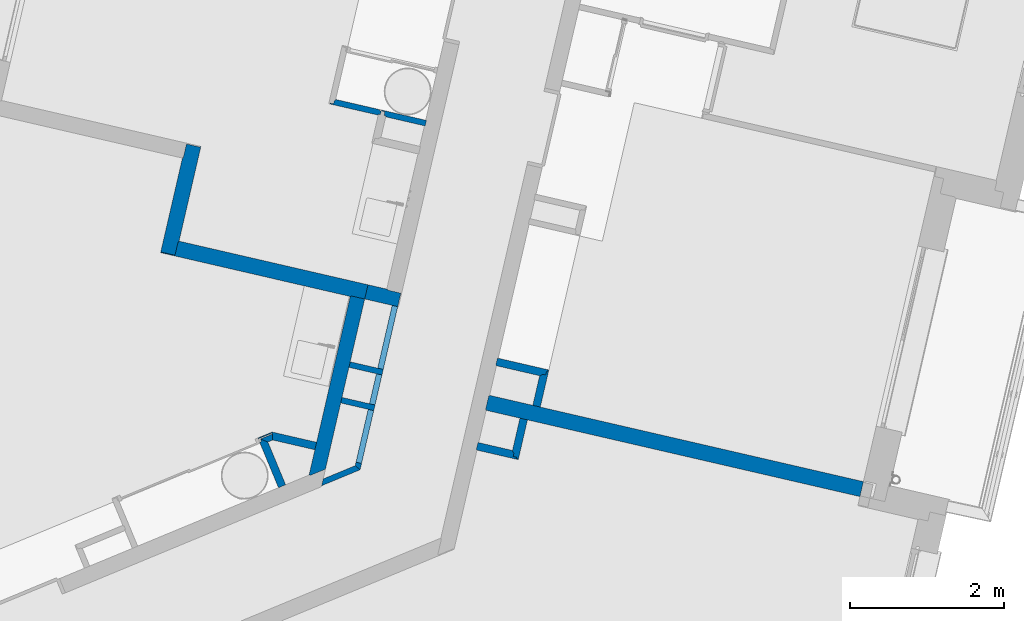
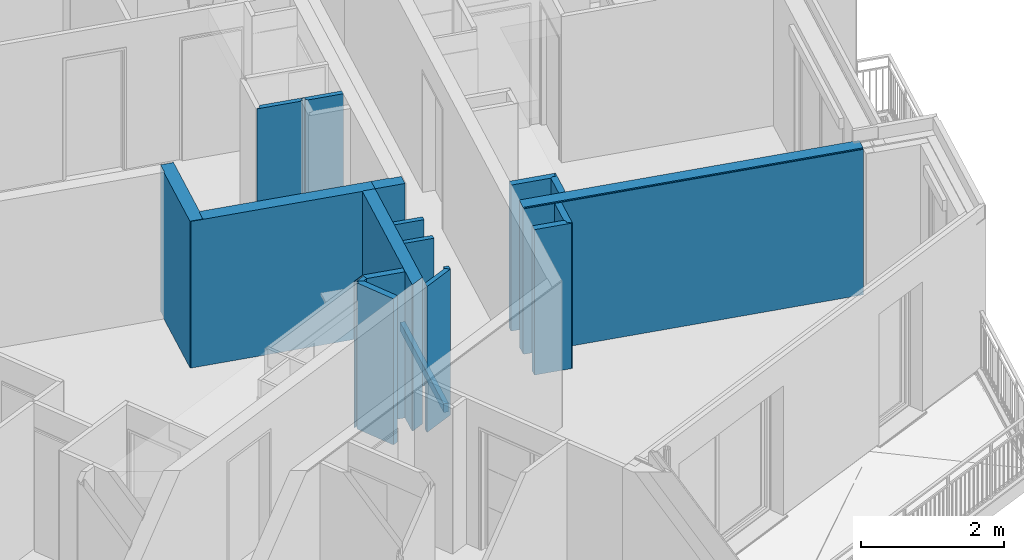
# One storey, part 44 of 90: 19 walls.
"""IFC2X3 building model written with IfcOpenShell, lengths in metres."""

from ifc_helpers import new_model, entity, si_unit, converted_unit, derived_unit, money_unit, direction, frame, origin_with_axes, place, context, subcontext, project, spatial, faceted_brep, material, material_list, type_object, element, save


model = new_model("IFC2X3")

# Units and contexts
model_context = context("Model", 3, precision=1e-05, world=origin_with_axes(), true_north=direction((0.0, 1.0)))
body_context = subcontext(model_context, "Body", "Model", "MODEL_VIEW")
ifc_project = project(units=[si_unit("LENGTHUNIT", "METRE"), si_unit("AREAUNIT", "SQUARE_METRE"), si_unit("VOLUMEUNIT", "CUBIC_METRE"), converted_unit("PLANEANGLEUNIT", "DEGREE", entity("IfcPlaneAngleMeasure", 0.0174532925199), si_unit("PLANEANGLEUNIT", "RADIAN"), dimensions=[0, 0, 0, 0, 0, 0, 0]), si_unit("SOLIDANGLEUNIT", "STERADIAN"), money_unit("EUR"), converted_unit("TIMEUNIT", "Year", entity("IfcTimeMeasure", 31556926.0), si_unit("TIMEUNIT", "SECOND"), dimensions=[0, 0, 1, 0, 0, 0, 0]), si_unit("MASSUNIT", "GRAM", prefix="KILO"), si_unit("THERMODYNAMICTEMPERATUREUNIT", "DEGREE_CELSIUS"), si_unit("LUMINOUSINTENSITYUNIT", "LUMEN"), si_unit("ENERGYUNIT", "JOULE", prefix="MEGA"), derived_unit("THERMALCONDUCTANCEUNIT", [(si_unit("POWERUNIT", "WATT"), 1), (si_unit("LENGTHUNIT", "METRE"), -1), (si_unit("THERMODYNAMICTEMPERATUREUNIT", "KELVIN"), -1)]), derived_unit("SPECIFICHEATCAPACITYUNIT", [(si_unit("ENERGYUNIT", "JOULE"), 1), (si_unit("MASSUNIT", "GRAM", prefix="KILO"), -1), (si_unit("THERMODYNAMICTEMPERATUREUNIT", "KELVIN"), -1)]), derived_unit("MASSDENSITYUNIT", [(si_unit("MASSUNIT", "GRAM", prefix="KILO"), 1), (si_unit("VOLUMEUNIT", "CUBIC_METRE"), -1)])], contexts=[model_context])

# Site, building, storey
site_placement = place(None, origin_with_axes())
site = spatial("IfcSite", under=ifc_project, at=site_placement, Name="Site", CompositionType="ELEMENT")
building_placement = place(site_placement, origin_with_axes())
building = spatial("IfcBuilding", under=site, at=building_placement, Name="Bâtiment", CompositionType="ELEMENT")
storey_placement = place(building_placement, frame((0.0, 0.0, 2.72), z_axis=(0.0, 0.0, 1.0), x_axis=(1.0, 0.0, 0.0)))
storey = spatial("IfcBuildingStorey", under=building, at=storey_placement, Name="R+1", CompositionType="ELEMENT", Elevation=2.72)

# Walls
ifc_material_1 = material(Name="Cloison - Carreaux de plâtre")
wall_type_1 = type_object("IfcWallType", Name="Cloison - Carreaux de plâtre 74", PredefinedType="USERDEFINED")
wall_1_placement = place(storey_placement, frame((-14.2603679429, -15.3325991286, 0.0), z_axis=(0.0, 0.0, 1.0), x_axis=(-0.224876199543, -0.974387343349, 0.0)))
element("IfcWall", 1, at=wall_1_placement, inside=storey, type_object=wall_type_1, material=ifc_material_1, Name="Carreaux de plâtre 8cm", ObjectType="PARTITIONING", context=body_context, shape_type="Brep", body=[
    faceted_brep([(2.0880083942, 0.0, 0.15), (2.0880083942, 0.0, 0.0), (0.0, 0.0, 0.0), (0.0, 0.0, 0.15), (2.0880083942, -0.074, 0.15), (2.0880083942, -0.074, 0.0), (0.0, -0.074, 0.0), (0.0, -0.074, 0.15)], [[[0, 1, 2, 3]], [[4, 5, 1, 0]], [[1, 5, 6, 2]], [[2, 6, 7, 3]], [[4, 0, 3, 7]], [[5, 4, 7, 6]]]),
])
wall_2_placement = place(storey_placement, frame((-15.2595237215, -17.6608345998, 0.0), z_axis=(0.0, 0.0, 1.0), x_axis=(0.923701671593, 0.383112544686, 0.0)))
element("IfcWall", 2, at=wall_2_placement, inside=storey, type_object=wall_type_1, material=ifc_material_1, Name="Carreaux de plâtre 8cm", ObjectType="PARTITIONING", context=body_context, shape_type="Brep", body=[
    faceted_brep([(0.514805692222, 0.074, 2.5), (0.514805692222, 0.074, 0.0), (0.0651136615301, 0.074, 0.0), (0.0651136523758, 0.074, 2.5), (0.552900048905, 0.0, 2.5), (0.552900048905, 0.0, 0.0), (0.0122866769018, 0.0, 0.0), (0.0122866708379, 4.33344737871e-09, 2.5)], [[[0, 1, 2, 3]], [[4, 5, 1, 0]], [[1, 5, 6, 2]], [[2, 6, 7, 3]], [[4, 0, 3, 7]], [[5, 4, 7, 6]]]),
])
wall_3_placement = place(storey_placement, frame((-14.5715853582, -16.6811024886, 0.0), z_axis=(0.0, 0.0, 1.0), x_axis=(-0.974387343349, 0.224876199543, 0.0)))
element("IfcWall", 3, at=wall_3_placement, inside=storey, type_object=wall_type_1, material=ifc_material_1, Name="Carreaux de plâtre 8cm", ObjectType="PARTITIONING", context=body_context, shape_type="Brep", body=[
    faceted_brep([(0.0, -0.074, 2.5), (0.0, 0.0, 2.5), (0.0, 0.0, 0.15), (0.0, -0.074, 0.15), (0.440000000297, -0.074, 2.5), (0.440000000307, 0.0, 2.5), (0.440000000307, 0.0, 0.0), (0.0740000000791, 0.0, 0.0), (0.0740000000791, 0.0, 0.15), (0.0740000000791, -0.074, 0.15), (0.0740000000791, -0.074, 0.0), (0.440000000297, -0.074, 0.0)], [[[0, 1, 2, 3]], [[0, 4, 5, 1]], [[6, 7, 8, 2, 1, 5]], [[2, 8, 9, 3]], [[0, 3, 9, 10, 11, 4]], [[6, 5, 4, 11]], [[6, 11, 10, 7]], [[8, 7, 10, 9]]]),
])
wall_4_placement = place(storey_placement, frame((-14.4649940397, -16.2192428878, 0.0), z_axis=(0.0, 0.0, 1.0), x_axis=(-0.974387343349, 0.224876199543, 0.0)))
element("IfcWall", 4, at=wall_4_placement, inside=storey, type_object=wall_type_1, material=ifc_material_1, Name="Carreaux de plâtre 8cm", ObjectType="PARTITIONING", context=body_context, shape_type="Brep", body=[
    faceted_brep([(0.0, -0.074, 2.5), (0.0, 0.0, 2.5), (0.0, 0.0, 0.15), (0.0, -0.074, 0.15), (0.440000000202, -0.074, 2.5), (0.440000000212, 0.0, 2.5), (0.440000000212, 0.0, 0.0), (0.0740000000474, 0.0, 0.0), (0.0740000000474, 0.0, 0.15), (0.0740000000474, -0.074, 0.15), (0.0740000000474, -0.074, 0.0), (0.440000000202, -0.074, 0.0)], [[[0, 1, 2, 3]], [[0, 4, 5, 1]], [[6, 7, 8, 2, 1, 5]], [[2, 8, 9, 3]], [[0, 3, 9, 10, 11, 4]], [[6, 5, 4, 11]], [[6, 11, 10, 7]], [[8, 7, 10, 9]]]),
])
wall_5_placement = place(storey_placement, frame((-14.7299113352, -17.3671280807, 0.0), z_axis=(0.0, 0.0, 1.0), x_axis=(-0.224876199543, -0.974387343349, 0.0)))
element("IfcWall", 5, at=wall_5_placement, inside=storey, type_object=wall_type_1, material=ifc_material_1, Name="Carreaux de plâtre 8cm", ObjectType="PARTITIONING", context=body_context, shape_type="Brep", body=[
    faceted_brep([(0.0, 0.0, 2.5), (0.0, -0.074, 2.5), (0.0459416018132, -0.074, 2.5), (0.0840359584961, 0.0, 2.5), (0.0, 0.0, 0.15), (0.0, -0.074, 0.15), (0.0, -0.074, 0.0), (0.0459416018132, -0.074, 0.0), (0.0840359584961, 0.0, 0.0), (0.0, 0.0, 0.0)], [[[0, 1, 2, 3]], [[1, 0, 4, 5]], [[5, 6, 7, 2, 1]], [[7, 8, 3, 2]], [[3, 8, 9, 4, 0]], [[9, 6, 5, 4]], [[9, 8, 7, 6]]]),
])
ifc_material_2 = material(Name="Finition int - Plaque de plâtre")
ifc_material_3 = material(Name="Isolation - Laine de roche")
ifc_material_list_1 = material_list([ifc_material_2, ifc_material_3, ifc_material_2])
wall_type_2 = type_object("IfcWallType", Name="3 - Cloison 72mm Placostil 74", PredefinedType="USERDEFINED")
wall_6_placement = place(storey_placement, frame((-14.4971187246, -12.7758750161, 0.0), z_axis=(0.0, 0.0, 1.0), x_axis=(-0.974387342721, 0.224876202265, 0.0)))
element("IfcWall", 6, at=wall_6_placement, inside=storey, type_object=wall_type_2, material=ifc_material_list_1, Name="Cloison Placostil 72/48", ObjectType="PARTITIONING", context=body_context, shape_type="Brep", body=[
    faceted_brep([(0.645366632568, 0.074, 2.5), (-2.16481055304e-10, 0.074, 2.5), (-1.78452808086e-10, 0.061, 2.5), (0.645366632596, 0.061, 2.5), (0.645366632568, 0.074, 0.0), (-2.16481055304e-10, 0.074, 0.0), (-1.78452808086e-10, 0.061, 0.0), (0.645366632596, 0.061, 0.0)], [[[0, 1, 2, 3]], [[4, 5, 1, 0]], [[5, 6, 2, 1]], [[3, 2, 6, 7]], [[0, 3, 7, 4]], [[7, 6, 5, 4]]]),
    faceted_brep([(0.597366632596, 0.061, 2.5), (-0.0260000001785, 0.061, 2.5), (-0.026000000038, 0.013, 2.5), (0.597366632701, 0.013, 2.5), (0.597366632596, 0.061, 0.0), (-0.0260000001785, 0.061, 0.0), (-0.026000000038, 0.013, 0.0), (0.597366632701, 0.013, 0.0)], [[[0, 1, 2, 3]], [[4, 5, 1, 0]], [[5, 6, 2, 1]], [[3, 2, 6, 7]], [[0, 3, 7, 4]], [[7, 6, 5, 4]]]),
    faceted_brep([(0.584366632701, 0.013, 2.5), (0.0, 0.013, 2.5), (0.0, 0.0, 2.5), (0.584366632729, 0.0, 2.5), (0.584366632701, 0.013, 0.0), (0.0, 0.013, 0.0), (0.0, 0.0, 0.0), (0.584366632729, 0.0, 0.0)], [[[0, 1, 2, 3]], [[4, 5, 1, 0]], [[5, 6, 2, 1]], [[3, 2, 6, 7]], [[0, 3, 7, 4]], [[7, 6, 5, 4]]]),
])
ifc_material_4 = material(Name="Finition int - Enduit plâtre")
ifc_material_5 = material(Name="Béton")
ifc_material_list_2 = material_list([ifc_material_4, ifc_material_5, ifc_material_4])
wall_type_3 = type_object("IfcWallType", Name="2 - Murs Béton 18 + Enduit 2 Faces 200", PredefinedType="USERDEFINED")
wall_7_placement = place(storey_placement, frame((-17.3251185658, -14.6252936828, 0.0), z_axis=(0.0, 0.0, 1.0), x_axis=(0.974387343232, -0.224876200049, 0.0)))
element("IfcWall", 7, at=wall_7_placement, inside=storey, type_object=wall_type_3, material=ifc_material_list_2, Name="M_Ext-009", ObjectType="SOLIDWALL", context=body_context, shape_type="Brep", body=[
    faceted_brep([(0.189999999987, 0.19, 2.51), (2.70531037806, 0.19, 2.51), (2.70531037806, 0.19, 0.0), (0.189999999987, 0.19, 0.0), (2.70531037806, 0.18, 2.51), (0.189999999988, 0.18, 2.51), (2.70531037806, 0.18, 0.0), (0.189999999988, 0.18, 0.0)], [[[0, 1, 2, 3]], [[4, 1, 0, 5]], [[1, 4, 6, 2]], [[3, 2, 6, 7]], [[5, 0, 3, 7]], [[4, 5, 7, 6]]]),
    faceted_brep([(0.179999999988, 0.18, 2.51), (2.70531037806, 0.18, 2.51), (2.70531037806, 0.18, 0.0), (0.179999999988, 0.18, 0.0), (2.70531037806, 0.0, 2.51), (0.18, 0.0, 2.51), (2.70531037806, 0.0, 0.0), (0.18, 0.0, 0.0)], [[[0, 1, 2, 3]], [[4, 1, 0, 5]], [[1, 4, 6, 2]], [[3, 2, 6, 7]], [[5, 0, 3, 7]], [[4, 5, 7, 6]]]),
    faceted_brep([(0.0, 0.0, 2.51), (2.52531037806, 0.0, 2.51), (2.52531037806, 0.0, 0.0), (0.0, 0.0, 0.0), (2.52531037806, -0.01, 2.51), (0.0, -0.01, 2.51), (2.52531037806, -0.01, 0.0), (0.0, -0.01, 0.0)], [[[0, 1, 2, 3]], [[4, 1, 0, 5]], [[1, 4, 6, 2]], [[2, 6, 7, 3]], [[5, 0, 3, 7]], [[4, 5, 7, 6]]]),
])
wall_8_placement = place(storey_placement, frame((-13.2559496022, -16.450136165, 0.0), z_axis=(0.0, 0.0, 1.0), x_axis=(0.974387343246, -0.224876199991, 0.0)))
element("IfcWall", 8, at=wall_8_placement, inside=storey, type_object=wall_type_3, material=ifc_material_list_2, Name="M_Ext-009", ObjectType="SOLIDWALL", context=body_context, shape_type="Brep", body=[
    faceted_brep([(0.190000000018, 0.0, 2.51), (5.16700000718, 0.0, 2.51), (5.16700000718, 0.01, 2.51), (0.190000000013, 0.01, 2.51), (0.190000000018, 0.0, 0.0), (5.16700000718, 0.0, 0.0), (5.16700000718, 0.01, 0.0), (0.190000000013, 0.01, 0.0)], [[[0, 1, 2, 3]], [[4, 5, 1, 0]], [[2, 1, 5, 6]], [[3, 2, 6, 7]], [[4, 0, 3, 7]], [[7, 6, 5, 4]]]),
    faceted_brep([(0.18000000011, -0.18, 2.51), (5.16700000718, -0.18, 2.51), (5.16700000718, 0.0, 2.51), (0.180000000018, 0.0, 2.51), (0.18000000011, -0.18, 0.0), (5.16700000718, -0.18, 0.0), (5.16700000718, 0.0, 0.0), (0.180000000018, 0.0, 0.0)], [[[0, 1, 2, 3]], [[4, 5, 1, 0]], [[2, 1, 5, 6]], [[3, 2, 6, 7]], [[4, 0, 3, 7]], [[7, 6, 5, 4]]]),
    faceted_brep([(0.19000000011, -0.180000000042, 2.49), (5.16700000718, -0.180000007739, 2.49), (5.16700000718, -0.18, 0.0), (0.19000000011, -0.18, 0.0), (5.16700000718, -0.19, 2.49), (0.190000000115, -0.19, 2.49), (5.16700000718, -0.19, 0.0), (0.190000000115, -0.19, 0.0)], [[[0, 1, 2, 3]], [[4, 1, 0, 5]], [[1, 4, 6, 2]], [[3, 2, 6, 7]], [[5, 0, 3, 7]], [[4, 5, 7, 6]]]),
])
wall_9_placement = place(storey_placement, frame((-17.0012968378, -13.2221759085, 0.0), z_axis=(0.0, 0.0, 1.0), x_axis=(-0.224876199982, -0.974387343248, 0.0)))
element("IfcWall", 9, at=wall_9_placement, inside=storey, type_object=wall_type_3, material=ifc_material_list_2, Name="M_Ext-008", ObjectType="SOLIDWALL", context=body_context, shape_type="Brep", body=[
    faceted_brep([(-0.0100000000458, 0.18, 2.51), (-0.0100000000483, 0.19, 2.51), (-0.0100000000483, 0.19, 0.0), (-0.0100000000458, 0.18, 0.0), (1.26000000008, 0.19, 2.51), (1.26000000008, 0.18, 2.51), (1.26000000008, 0.19, 0.0), (1.26000000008, 0.18, 0.0)], [[[0, 1, 2, 3]], [[4, 1, 0, 5]], [[1, 4, 6, 2]], [[6, 7, 3, 2]], [[5, 0, 3, 7]], [[4, 5, 7, 6]]]),
    faceted_brep([(0.0, 0.0, 2.51), (0.0, 0.18, 2.51), (0.0, 0.18, 0.0), (0.0, 0.0, 0.0), (1.44000000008, 0.18, 2.51), (1.44000000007, 0.0, 2.51), (1.44000000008, 0.18, 0.0), (1.44000000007, 0.0, 0.0)], [[[0, 1, 2, 3]], [[4, 1, 0, 5]], [[1, 4, 6, 2]], [[6, 7, 3, 2]], [[5, 0, 3, 7]], [[4, 5, 7, 6]]]),
    faceted_brep([(0.180000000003, -0.00999999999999, 2.51), (0.18, 0.0, 2.51), (0.18, 0.0, 0.0), (0.180000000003, -0.00999999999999, 0.0), (1.45000000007, 0.0, 2.51), (1.45000000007, -0.01, 2.51), (1.45000000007, 0.0, 0.0), (1.45000000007, -0.01, 0.0)], [[[0, 1, 2, 3]], [[4, 1, 0, 5]], [[1, 4, 6, 2]], [[6, 7, 3, 2]], [[5, 0, 3, 7]], [[4, 5, 7, 6]]]),
])
wall_type_4 = type_object("IfcWallType", Name="3 - Cloison Gaine Technique 72mm 74", PredefinedType="USERDEFINED")
wall_10_placement = place(storey_placement, frame((-13.7121197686, -12.9570427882, 0.0), z_axis=(0.0, 0.0, 1.0), x_axis=(-0.974387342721, 0.224876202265, 0.0)))
element("IfcWall", 10, at=wall_10_placement, inside=storey, type_object=wall_type_4, material=ifc_material_list_1, Name="Cloison Placostil 72/48", ObjectType="PARTITIONING", context=body_context, shape_type="Brep", body=[
    faceted_brep([(0.705633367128, 0.074, 0.0), (0.705633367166, 0.061, 0.0), (0.179999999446, 0.061, 0.0), (0.179999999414, 0.074, 0.0), (0.705633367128, 0.074, 2.5), (0.705633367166, 0.061, 2.5), (0.179999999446, 0.061, 2.5), (0.179999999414, 0.074, 2.5)], [[[0, 1, 2, 3]], [[1, 0, 4, 5]], [[1, 5, 6, 2]], [[7, 3, 2, 6]], [[4, 0, 3, 7]], [[5, 4, 7, 6]]]),
    faceted_brep([(0.731633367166, 0.061, 0.0), (0.731633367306, 0.013, 0.0), (0.179999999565, 0.013, 0.0), (0.179999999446, 0.061, 0.0), (0.731633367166, 0.061, 2.5), (0.731633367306, 0.013, 2.5), (0.179999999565, 0.013, 2.5), (0.179999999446, 0.061, 2.5)], [[[0, 1, 2, 3]], [[1, 0, 4, 5]], [[1, 5, 6, 2]], [[7, 3, 2, 6]], [[4, 0, 3, 7]], [[5, 4, 7, 6]]]),
    faceted_brep([(0.179999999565, 0.013, 0.0), (0.779633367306, 0.013, 0.0), (0.779633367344, 0.0, 0.0), (0.179999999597, 0.0, 0.0), (0.179999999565, 0.013, 2.5), (0.779633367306, 0.013, 2.5), (0.779633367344, 0.0, 2.5), (0.179999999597, 0.0, 2.5)], [[[0, 1, 2, 3]], [[4, 5, 1, 0]], [[6, 2, 1, 5]], [[3, 2, 6, 7]], [[7, 4, 0, 3]], [[7, 6, 5, 4]]]),
])
ifc_material_list_3 = material_list([ifc_material_5, ifc_material_4])
wall_type_5 = type_object("IfcWallType", Name="2 - Murs Béton 18 + Enduit 1 Face 190", PredefinedType="USERDEFINED")
wall_11_placement = place(storey_placement, frame((-14.6988422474, -15.2314048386, 0.0), z_axis=(0.0, 0.0, 1.0), x_axis=(-0.224876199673, -0.974387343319, 0.0)))
element("IfcWall", 11, at=wall_11_placement, inside=storey, type_object=wall_type_5, material=ifc_material_list_3, Name="M_Ext-009", ObjectType="SOLIDWALL", context=body_context, shape_type="Brep", body=[
    faceted_brep([(-1.19925402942e-10, -0.17, 2.51), (0.0, 0.01, 2.51), (0.0, 0.01, 0.0), (-1.19925402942e-10, -0.17, 0.0), (2.2649907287, 0.01, 2.51), (2.39348879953, -0.17, 2.51), (2.26499072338, 0.0100000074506, 0.0), (2.39348879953, -0.17, 0.0)], [[[0, 1, 2, 3]], [[4, 1, 0, 5]], [[1, 4, 6, 2]], [[2, 6, 7, 3]], [[5, 0, 3, 7]], [[4, 5, 7, 6]]]),
    faceted_brep([(0.00999999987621, -0.18, 2.51), (0.00999999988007, -0.17, 2.51), (0.00999999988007, -0.17, 0.0), (0.00999999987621, -0.18, 0.0), (2.38120213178, -0.17, 2.51), (2.38834091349, -0.18, 2.51), (2.38120213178, -0.17, 0.0), (2.38834091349, -0.18, 0.0)], [[[0, 1, 2, 3]], [[4, 1, 0, 5]], [[1, 4, 6, 2]], [[2, 6, 7, 3]], [[5, 0, 3, 7]], [[4, 5, 7, 6]]]),
])
ifc_material_list_4 = material_list([ifc_material_4, ifc_material_5])
wall_12_placement = place(storey_placement, frame((-14.6890983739, -15.2336536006, 0.0), z_axis=(0.0, 0.0, 1.0), x_axis=(0.974387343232, -0.224876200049, 0.0)))
element("IfcWall", 12, at=wall_12_placement, inside=storey, type_object=wall_type_5, material=ifc_material_list_4, Name="M_Ext-009", ObjectType="SOLIDWALL", context=body_context, shape_type="Brep", body=[
    faceted_brep([(0.0, 0.19, 2.51), (0.260000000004, 0.19, 2.51), (0.260000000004, 0.19, 0.0), (0.0, 0.19, 0.0), (0.260000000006, 0.18, 2.51), (0.0, 0.18, 2.51), (0.260000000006, 0.18, 0.0), (0.0, 0.18, 0.0)], [[[0, 1, 2, 3]], [[4, 1, 0, 5]], [[1, 4, 6, 2]], [[3, 2, 6, 7]], [[5, 0, 3, 7]], [[4, 5, 7, 6]]]),
    faceted_brep([(0.0, 0.18, 2.51), (0.440000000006, 0.18, 2.51), (0.440000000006, 0.18, 0.0), (0.0, 0.18, 0.0), (0.440000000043, 0.0, 2.51), (0.0, 0.0, 2.51), (0.440000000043, 0.0, 0.0), (0.0, 0.0, 0.0)], [[[0, 1, 2, 3]], [[4, 1, 0, 5]], [[1, 4, 6, 2]], [[3, 2, 6, 7]], [[5, 0, 3, 7]], [[4, 5, 7, 6]]]),
])
ifc_material_list_5 = material_list([ifc_material_2, ifc_material_3, ifc_material_2, ifc_material_2])
wall_type_6 = type_object("IfcWallType", Name="3 - Cloison Gaine Technique 98mm 100", PredefinedType="USERDEFINED")
wall_13_placement = place(storey_placement, frame((-16.0750117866, -17.0355501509, 0.0), z_axis=(0.0, 0.0, 1.0), x_axis=(0.923701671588, 0.383112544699, 0.0)))
element("IfcWall", 13, at=wall_13_placement, inside=storey, type_object=wall_type_6, material=ifc_material_list_5, Name="Cloison 98 isolée", ObjectType="PARTITIONING", context=body_context, shape_type="Brep", body=[
    faceted_brep([(0.200046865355, 0.0, 2.5), (0.0, 0.0, 2.5), (0.0129999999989, -0.013, 2.5), (0.195882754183, -0.013, 2.5), (0.200046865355, 0.0, 0.0), (0.0, 0.0, 0.0), (0.0129999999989, -0.013, 0.0), (0.195882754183, -0.013, 0.0)], [[[0, 1, 2, 3]], [[4, 5, 1, 0]], [[1, 5, 6, 2]], [[7, 3, 2, 6]], [[7, 4, 0, 3]], [[4, 7, 6, 5]]]),
    faceted_brep([(0.176343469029, -0.0739999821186, 2.5), (0.191718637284, -0.0260000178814, 2.5), (0.0260000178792, -0.0260000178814, 2.5), (0.0739999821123, -0.0739999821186, 2.5), (0.176343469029, -0.0739999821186, 0.0), (0.191718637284, -0.0260000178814, 0.0), (0.0260000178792, -0.0260000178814, 0.0), (0.0739999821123, -0.0739999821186, 0.0)], [[[0, 1, 2, 3]], [[4, 5, 1, 0]], [[1, 5, 6, 2]], [[2, 6, 7, 3]], [[4, 0, 3, 7]], [[5, 4, 7, 6]]]),
    faceted_brep([(0.17217935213, -0.087, 2.5), (0.176343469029, -0.0739999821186, 2.5), (0.0739999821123, -0.0739999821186, 2.5), (0.0869999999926, -0.087, 2.5), (0.17217935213, -0.087, 0.0), (0.176343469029, -0.0739999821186, 0.0), (0.0739999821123, -0.0739999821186, 0.0), (0.0869999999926, -0.087, 0.0)], [[[0, 1, 2, 3]], [[4, 5, 1, 0]], [[1, 5, 6, 2]], [[2, 6, 7, 3]], [[4, 0, 3, 7]], [[5, 4, 7, 6]]]),
    faceted_brep([(0.168015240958, -0.1, 2.5), (0.17217935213, -0.087, 2.5), (0.0869999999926, -0.087, 2.5), (0.0999999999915, -0.1, 2.5), (0.168015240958, -0.1, 0.0), (0.17217935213, -0.087, 0.0), (0.0869999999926, -0.087, 0.0), (0.0999999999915, -0.1, 0.0)], [[[0, 1, 2, 3]], [[4, 5, 1, 0]], [[1, 5, 6, 2]], [[2, 6, 7, 3]], [[4, 0, 3, 7]], [[5, 4, 7, 6]]]),
])
ifc_material_list_6 = material_list([ifc_material_2, ifc_material_2, ifc_material_3, ifc_material_2, ifc_material_2])
wall_14_placement = place(storey_placement, frame((-13.1651790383, -16.0568278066, 0.0), z_axis=(0.0, 0.0, 1.0), x_axis=(0.974387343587, -0.224876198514, 0.0)))
element("IfcWall", 14, at=wall_14_placement, inside=storey, type_object=wall_type_6, material=ifc_material_list_6, Name="Cloison 98 isolée", ObjectType="PARTITIONING", context=body_context, shape_type="Brep", body=[
    faceted_brep([(0.864999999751, 0.1, 2.2), (0.864999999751, 0.1, 2.5), (0.864999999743, 0.087, 2.5), (0.864999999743, 0.087, 0.0), (0.864999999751, 0.1, 0.0), (0.19000000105, 0.098000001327, 2.5), (0.19000000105, 0.098000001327, 2.2), (0.190000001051, 0.1, 2.5), (0.18000000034, 0.1, 2.5), (0.180000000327, 0.087, 2.5), (0.180000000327, 0.087, 0.0), (0.18000000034, 0.1, 0.0), (0.190000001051, 0.1, 2.2)], [[[0, 1, 2, 3, 4]], [[5, 1, 0, 6]], [[5, 7, 8, 9, 2, 1]], [[3, 2, 9, 10]], [[4, 3, 10, 11]], [[12, 0, 4, 11, 8, 7]], [[0, 12, 6]], [[12, 7, 5, 6]], [[8, 11, 10, 9]]]),
    faceted_brep([(0.851999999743, 0.087, 0.0), (0.851999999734, 0.074, 0.0), (0.180000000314, 0.074, 0.0), (0.180000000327, 0.087, 0.0), (0.851999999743, 0.087, 2.5), (0.851999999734, 0.074, 2.5), (0.180000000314, 0.074, 2.5), (0.180000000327, 0.087, 2.5)], [[[0, 1, 2, 3]], [[1, 0, 4, 5]], [[1, 5, 6, 2]], [[7, 3, 2, 6]], [[4, 0, 3, 7]], [[5, 4, 7, 6]]]),
    faceted_brep([(0.838999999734, 0.074, 0.0), (0.838999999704, 0.026, 0.0), (0.180000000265, 0.026, 0.0), (0.180000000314, 0.074, 0.0), (0.838999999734, 0.074, 2.5), (0.838999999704, 0.026, 2.5), (0.180000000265, 0.026, 2.5), (0.180000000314, 0.074, 2.5)], [[[0, 1, 2, 3]], [[1, 0, 4, 5]], [[1, 5, 6, 2]], [[7, 3, 2, 6]], [[4, 0, 3, 7]], [[5, 4, 7, 6]]]),
    faceted_brep([(0.790999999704, 0.026, 0.0), (0.790999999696, 0.013, 0.0), (0.180000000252, 0.013, 0.0), (0.180000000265, 0.026, 0.0), (0.790999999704, 0.026, 2.5), (0.790999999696, 0.013, 2.5), (0.180000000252, 0.013, 2.5), (0.180000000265, 0.026, 2.5)], [[[0, 1, 2, 3]], [[1, 0, 4, 5]], [[1, 5, 6, 2]], [[7, 3, 2, 6]], [[4, 0, 3, 7]], [[5, 4, 7, 6]]]),
    faceted_brep([(0.777999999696, 0.013, 0.0), (0.777999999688, 0.0, 0.0), (0.180000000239, 0.0, 0.0), (0.180000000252, 0.013, 0.0), (0.777999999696, 0.013, 2.5), (0.777999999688, 0.0, 2.5), (0.180000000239, 0.0, 2.5), (0.180000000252, 0.013, 2.5)], [[[0, 1, 2, 3]], [[1, 0, 4, 5]], [[1, 5, 6, 2]], [[7, 3, 2, 6]], [[4, 0, 3, 7]], [[5, 4, 7, 6]]]),
])
wall_15_placement = place(storey_placement, frame((-12.6968138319, -17.3181034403, 0.0), z_axis=(0.0, 0.0, 1.0), x_axis=(-0.97438734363, 0.224876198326, 0.0)))
element("IfcWall", 15, at=wall_15_placement, inside=storey, type_object=wall_type_6, material=ifc_material_list_6, Name="Cloison 98 isolée", ObjectType="PARTITIONING", context=body_context, shape_type="Brep", body=[
    faceted_brep([(0.560000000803, -0.013, 2.49), (0.0129999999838, -0.013, 2.49), (0.0129999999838, -0.013, 0.0), (0.559999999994, -0.013, 0.0), (0.013, 0.0, 2.49), (0.560000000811, 0.0, 2.49), (0.013, 0.0, 0.0), (0.56000000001, 0.0, 0.0)], [[[0, 1, 2, 3]], [[4, 1, 0, 5]], [[1, 4, 6, 2]], [[7, 3, 2, 6]], [[5, 0, 3, 7]], [[4, 5, 7, 6]]]),
    faceted_brep([(0.560000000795, -0.026, 2.49), (0.0259999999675, -0.026, 2.49), (0.0259999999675, -0.026, 0.0), (0.559999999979, -0.026, 0.0), (0.0259999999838, -0.013, 2.49), (0.560000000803, -0.013, 2.49), (0.0259999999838, -0.013, 0.0), (0.559999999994, -0.013, 0.0)], [[[0, 1, 2, 3]], [[4, 1, 0, 5]], [[1, 4, 6, 2]], [[7, 3, 2, 6]], [[5, 0, 3, 7]], [[4, 5, 7, 6]]]),
    faceted_brep([(0.560000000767, -0.074, 2.49), (0.0739999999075, -0.074, 2.49), (0.0739999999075, -0.074, 0.0), (0.559999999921, -0.074, 0.0), (0.0739999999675, -0.026, 2.49), (0.560000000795, -0.026, 2.49), (0.0739999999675, -0.026, 0.0), (0.559999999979, -0.026, 0.0)], [[[0, 1, 2, 3]], [[4, 1, 0, 5]], [[1, 4, 6, 2]], [[7, 3, 2, 6]], [[5, 0, 3, 7]], [[4, 5, 7, 6]]]),
    faceted_brep([(0.560000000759, -0.087, 2.49), (0.0869999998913, -0.087, 2.49), (0.0869999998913, -0.087, 0.0), (0.559999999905, -0.087, 0.0), (0.0869999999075, -0.074, 2.49), (0.560000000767, -0.074, 2.49), (0.0869999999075, -0.074, 0.0), (0.559999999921, -0.074, 0.0)], [[[0, 1, 2, 3]], [[4, 1, 0, 5]], [[1, 4, 6, 2]], [[7, 3, 2, 6]], [[5, 0, 3, 7]], [[4, 5, 7, 6]]]),
    faceted_brep([(0.560000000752, -0.1, 2.49), (0.099999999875, -0.1, 2.49), (0.099999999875, -0.1, 0.0), (0.55999999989, -0.1, 0.0), (0.0999999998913, -0.087, 2.49), (0.560000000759, -0.087, 2.49), (0.0999999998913, -0.087, 0.0), (0.559999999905, -0.087, 0.0)], [[[0, 1, 2, 3]], [[4, 1, 0, 5]], [[1, 4, 6, 2]], [[7, 3, 2, 6]], [[5, 0, 3, 7]], [[4, 5, 7, 6]]]),
])
wall_16_placement = place(storey_placement, frame((-16.0750117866, -17.0355501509, 0.0), z_axis=(0.0, 0.0, 1.0), x_axis=(0.383112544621, -0.92370167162, 0.0)))
element("IfcWall", 16, at=wall_16_placement, inside=storey, type_object=wall_type_6, material=ifc_material_list_6, Name="Cloison 98 isolée", ObjectType="PARTITIONING", context=body_context, shape_type="Brep", body=[
    faceted_brep([(0.699999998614, 0.1, 2.5), (0.699999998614, 0.1, 0.0), (0.0999999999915, 0.1, 0.0), (0.0999999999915, 0.1, 2.5), (0.699999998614, 0.087, 2.5), (0.699999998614, 0.087, 0.0), (0.0869999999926, 0.087, 0.0), (0.0869999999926, 0.087, 2.5)], [[[0, 1, 2, 3]], [[0, 4, 5, 1]], [[1, 5, 6, 2]], [[2, 6, 7, 3]], [[4, 0, 3, 7]], [[5, 4, 7, 6]]]),
    faceted_brep([(0.699999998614, 0.087, 2.5), (0.699999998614, 0.087, 0.0), (0.0869999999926, 0.087, 0.0), (0.0869999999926, 0.087, 2.5), (0.699999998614, 0.074, 2.5), (0.699999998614, 0.074, 0.0), (0.0739999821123, 0.0739999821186, 0.0), (0.0739999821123, 0.0739999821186, 2.5)], [[[0, 1, 2, 3]], [[0, 4, 5, 1]], [[1, 5, 6, 2]], [[2, 6, 7, 3]], [[4, 0, 3, 7]], [[5, 4, 7, 6]]]),
    faceted_brep([(0.699999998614, 0.074, 2.5), (0.699999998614, 0.074, 0.0), (0.0739999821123, 0.0739999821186, 0.0), (0.0739999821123, 0.0739999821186, 2.5), (0.699999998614, 0.026, 2.5), (0.699999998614, 0.026, 0.0), (0.0260000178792, 0.0260000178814, 0.0), (0.0260000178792, 0.0260000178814, 2.5)], [[[0, 1, 2, 3]], [[0, 4, 5, 1]], [[1, 5, 6, 2]], [[2, 6, 7, 3]], [[4, 0, 3, 7]], [[5, 4, 7, 6]]]),
    faceted_brep([(0.699999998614, 0.026, 0.0), (0.0609999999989, 0.0260000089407, 0.0), (0.0609999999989, 0.0260000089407, 2.5), (0.699999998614, 0.026, 2.5), (0.699999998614, 0.013, 0.0), (0.0609999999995, 0.013, 0.0), (0.0609999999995, 0.013, 2.5), (0.699999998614, 0.013, 2.5)], [[[0, 1, 2, 3]], [[4, 5, 1, 0]], [[5, 6, 2, 1]], [[3, 2, 6, 7]], [[3, 7, 4, 0]], [[7, 6, 5, 4]]]),
    faceted_brep([(0.0, 0.0, 2.5), (0.013, 0.0, 2.5), (0.0129999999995, 0.013, 2.5), (0.0, 0.0, 0.0), (0.013, 0.0, 0.0), (0.0129999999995, 0.013, 0.0)], [[[0, 1, 2]], [[3, 4, 1, 0]], [[4, 5, 2, 1]], [[0, 2, 5, 3]], [[3, 5, 4]]]),
    faceted_brep([(0.699999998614, 0.013, 0.0), (0.0609999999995, 0.013, 0.0), (0.0609999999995, 0.013, 2.5), (0.699999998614, 0.013, 2.5), (0.699999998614, 0.0, 0.0), (0.061, 0.0, 0.0), (0.061, 0.0, 2.5), (0.699999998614, 0.0, 2.5)], [[[0, 1, 2, 3]], [[4, 5, 1, 0]], [[5, 6, 2, 1]], [[3, 2, 6, 7]], [[3, 7, 4, 0]], [[7, 6, 5, 4]]]),
])
wall_17_placement = place(storey_placement, frame((-12.4108557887, -16.6349102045, 0.0), z_axis=(0.0, 0.0, 1.0), x_axis=(0.224876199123, 0.974387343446, 0.0)))
element("IfcWall", 17, at=wall_17_placement, inside=storey, type_object=wall_type_6, material=ifc_material_list_6, Name="Cloison 98 isolée", ObjectType="PARTITIONING", context=body_context, shape_type="Brep", body=[
    faceted_brep([(0.393646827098, 0.1, 0.0), (0.393646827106, 0.087, 0.0), (0.0, 0.087, 0.0), (0.0, 0.1, 0.0), (0.393646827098, 0.1, 2.5), (0.393646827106, 0.087, 2.5), (0.0, 0.087, 2.5), (0.0, 0.1, 2.5)], [[[0, 1, 2, 3]], [[1, 0, 4, 5]], [[1, 5, 6, 2]], [[7, 3, 2, 6]], [[4, 0, 3, 7]], [[5, 4, 7, 6]]]),
    faceted_brep([(0.406646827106, 0.087, 0.0), (0.406646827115, 0.074, 0.0), (0.0, 0.074, 0.0), (0.0, 0.087, 0.0), (0.406646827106, 0.087, 2.5), (0.406646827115, 0.074, 2.5), (0.0, 0.074, 2.5), (0.0, 0.087, 2.5)], [[[0, 1, 2, 3]], [[1, 0, 4, 5]], [[1, 5, 6, 2]], [[7, 3, 2, 6]], [[4, 0, 3, 7]], [[5, 4, 7, 6]]]),
    faceted_brep([(0.419646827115, 0.074, 0.0), (0.419646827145, 0.026, 0.0), (0.0, 0.026, 0.0), (0.0, 0.074, 0.0), (0.419646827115, 0.074, 2.5), (0.419646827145, 0.026, 2.5), (0.0, 0.026, 2.5), (0.0, 0.074, 2.5)], [[[0, 1, 2, 3]], [[1, 0, 4, 5]], [[1, 5, 6, 2]], [[7, 3, 2, 6]], [[4, 0, 3, 7]], [[5, 4, 7, 6]]]),
    faceted_brep([(0.467646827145, 0.026, 0.0), (0.467646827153, 0.013, 0.0), (0.0, 0.013, 0.0), (0.0, 0.026, 0.0), (0.467646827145, 0.026, 2.5), (0.467646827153, 0.013, 2.5), (0.0, 0.013, 2.5), (0.0, 0.026, 2.5)], [[[0, 1, 2, 3]], [[1, 0, 4, 5]], [[1, 5, 6, 2]], [[7, 3, 2, 6]], [[4, 0, 3, 7]], [[5, 4, 7, 6]]]),
    faceted_brep([(0.480646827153, 0.013, 0.0), (0.480646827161, 0.0, 0.0), (0.0, 0.0, 0.0), (0.0, 0.013, 0.0), (0.480646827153, 0.013, 2.5), (0.480646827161, 0.0, 2.5), (0.0, 0.0, 2.5), (0.0, 0.013, 2.5)], [[[0, 1, 2, 3]], [[1, 0, 4, 5]], [[1, 5, 6, 2]], [[7, 3, 2, 6]], [[4, 0, 3, 7]], [[5, 4, 7, 6]]]),
])
wall_18_placement = place(storey_placement, frame((-12.5776294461, -16.8016781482, 0.0), z_axis=(0.0, 0.0, 1.0), x_axis=(-0.224876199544, -0.974387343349, 0.0)))
element("IfcWall", 18, at=wall_18_placement, inside=storey, type_object=wall_type_6, material=ifc_material_list_6, Name="Cloison 98 isolée", ObjectType="PARTITIONING", context=body_context, shape_type="Brep", body=[
    faceted_brep([(0.0, -0.013, 2.49), (0.0, 0.0, 2.49), (0.0, 0.0, 0.0), (0.0, -0.013, 0.0), (0.530000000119, 0.0, 2.49), (0.530000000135, -0.013, 2.49), (0.530000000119, 0.0, 0.0), (0.530000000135, -0.013, 0.0)], [[[0, 1, 2, 3]], [[4, 1, 0, 5]], [[1, 4, 6, 2]], [[6, 7, 3, 2]], [[5, 0, 3, 7]], [[4, 5, 7, 6]]]),
    faceted_brep([(0.0, -0.026, 2.49), (0.0, -0.013, 2.49), (0.0, -0.013, 0.0), (0.0, -0.026, 0.0), (0.517000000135, -0.013, 2.49), (0.517000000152, -0.026, 2.49), (0.517000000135, -0.013, 0.0), (0.517000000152, -0.026, 0.0)], [[[0, 1, 2, 3]], [[4, 1, 0, 5]], [[1, 4, 6, 2]], [[6, 7, 3, 2]], [[5, 0, 3, 7]], [[4, 5, 7, 6]]]),
    faceted_brep([(0.0, -0.074, 2.49), (0.0, -0.026, 2.49), (0.0, -0.026, 0.0), (0.0, -0.074, 0.0), (0.504000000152, -0.026, 2.49), (0.504000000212, -0.074, 2.49), (0.504000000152, -0.026, 0.0), (0.504000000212, -0.074, 0.0)], [[[0, 1, 2, 3]], [[4, 1, 0, 5]], [[1, 4, 6, 2]], [[6, 7, 3, 2]], [[5, 0, 3, 7]], [[4, 5, 7, 6]]]),
    faceted_brep([(0.0, -0.087, 2.49), (0.0, -0.074, 2.49), (0.0, -0.074, 0.0), (0.0, -0.087, 0.0), (0.456000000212, -0.074, 2.49), (0.456000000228, -0.087, 2.49), (0.456000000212, -0.074, 0.0), (0.456000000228, -0.087, 0.0)], [[[0, 1, 2, 3]], [[4, 1, 0, 5]], [[1, 4, 6, 2]], [[6, 7, 3, 2]], [[5, 0, 3, 7]], [[4, 5, 7, 6]]]),
    faceted_brep([(0.0, -0.1, 2.49), (0.0, -0.087, 2.49), (0.0, -0.087, 0.0), (0.0, -0.1, 0.0), (0.443000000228, -0.087, 2.49), (0.443000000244, -0.1, 2.49), (0.443000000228, -0.087, 0.0), (0.443000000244, -0.1, 0.0)], [[[0, 1, 2, 3]], [[4, 1, 0, 5]], [[1, 4, 6, 2]], [[6, 7, 3, 2]], [[5, 0, 3, 7]], [[4, 5, 7, 6]]]),
])
wall_19_placement = place(storey_placement, frame((-15.8902281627, -16.9589096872, 0.0), z_axis=(0.0, 0.0, 1.0), x_axis=(0.974387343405, -0.224876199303, 0.0)))
element("IfcWall", 19, at=wall_19_placement, inside=storey, type_object=wall_type_6, material=ifc_material_list_6, Name="Cloison 98 isolée", ObjectType="PARTITIONING", context=body_context, shape_type="Brep", body=[
    faceted_brep([(0.0, 0.0, 2.5), (0.0041641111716, -0.013, 2.5), (0.592396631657, -0.013, 2.5), (0.592396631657, 0.0, 2.5), (0.0, 0.0, 0.0), (0.0041641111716, -0.013, 0.0), (0.592396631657, -0.013, 0.0), (0.592396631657, 0.0, 0.0)], [[[0, 1, 2, 3]], [[4, 5, 1, 0]], [[2, 1, 5, 6]], [[7, 3, 2, 6]], [[4, 0, 3, 7]], [[6, 5, 4, 7]]]),
    faceted_brep([(0.592396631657, -0.013, 2.5), (0.0041641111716, -0.013, 2.5), (0.00832822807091, -0.0260000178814, 2.5), (0.592396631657, -0.026, 2.5), (0.592396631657, -0.013, 0.0), (0.0041641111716, -0.013, 0.0), (0.00832822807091, -0.0260000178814, 0.0), (0.592396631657, -0.026, 0.0)], [[[0, 1, 2, 3]], [[4, 5, 1, 0]], [[5, 6, 2, 1]], [[3, 2, 6, 7]], [[4, 0, 3, 7]], [[7, 6, 5, 4]]]),
    faceted_brep([(0.592396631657, -0.026, 2.5), (0.00832822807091, -0.0260000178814, 2.5), (0.023703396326, -0.0739999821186, 2.5), (0.592396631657, -0.074, 2.5), (0.592396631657, -0.026, 0.0), (0.00832822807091, -0.0260000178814, 0.0), (0.023703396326, -0.0739999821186, 0.0), (0.592396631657, -0.074, 0.0)], [[[0, 1, 2, 3]], [[4, 5, 1, 0]], [[5, 6, 2, 1]], [[3, 2, 6, 7]], [[4, 0, 3, 7]], [[7, 6, 5, 4]]]),
    faceted_brep([(0.592396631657, -0.074, 2.5), (0.023703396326, -0.0739999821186, 2.5), (0.0278675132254, -0.087, 2.5), (0.592396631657, -0.087, 2.5), (0.592396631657, -0.074, 0.0), (0.023703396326, -0.0739999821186, 0.0), (0.0278675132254, -0.087, 0.0), (0.592396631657, -0.087, 0.0)], [[[0, 1, 2, 3]], [[4, 5, 1, 0]], [[5, 6, 2, 1]], [[3, 2, 6, 7]], [[4, 0, 3, 7]], [[7, 6, 5, 4]]]),
    faceted_brep([(0.592396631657, -0.087, 2.5), (0.0278675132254, -0.087, 2.5), (0.032031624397, -0.1, 2.5), (0.592396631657, -0.1, 2.5), (0.592396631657, -0.087, 0.0), (0.0278675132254, -0.087, 0.0), (0.032031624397, -0.1, 0.0), (0.592396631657, -0.1, 0.0)], [[[0, 1, 2, 3]], [[4, 5, 1, 0]], [[5, 6, 2, 1]], [[3, 2, 6, 7]], [[4, 0, 3, 7]], [[7, 6, 5, 4]]]),
])

save(model, "model.ifc")
